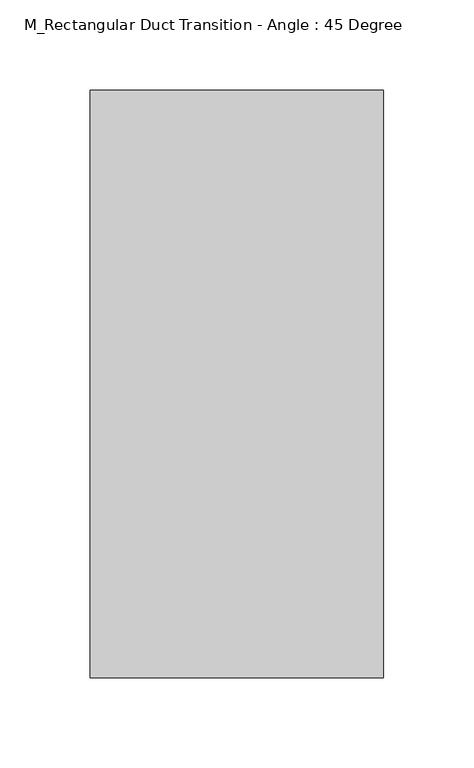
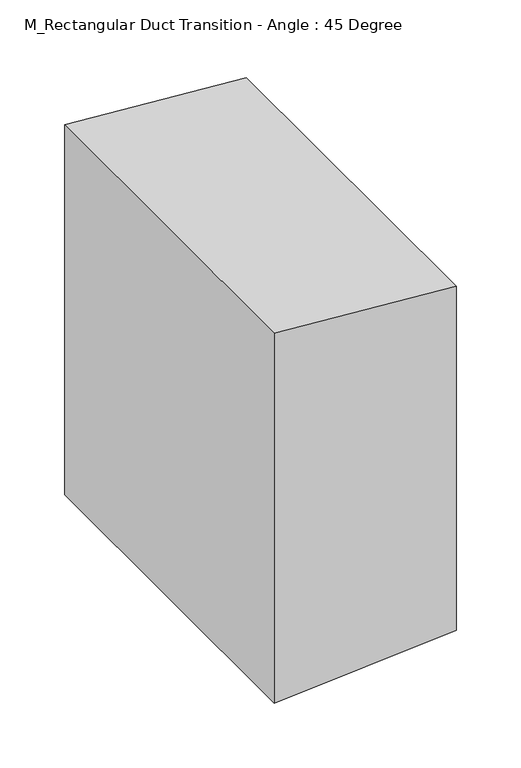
"""IFC4 building model written with IfcOpenShell, lengths in millimetres: duct fitting geometry, M_Rectangular Duct Transition - Angle : 45 Degree."""

from ifc_helpers import new_model, si_unit, frame, origin, place, context, project, spatial, polyline, outline, extrude, source, transform, mapped, element, save


def m_rectangular_duct_transition_angle_45_degree_3830beb0(model_context):
    return source(origin(), model_context, "Body", "SweptSolid", [
        extrude(outline(polyline([(-175.0, 0.0), (175.0, 0.0), (162.5, -162.5), (-162.5, -162.5), (-175.0, 0.0)])), frame((0.0, -162.5, 0.0), z_axis=(-1.238633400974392e-12, 1.0, 0.0), x_axis=(0.0, 0.0, -1.0)), (0.0, 0.0, 1.0), 325.0),
        extrude(outline(polyline([(175.0, 0.0), (-175.0, 0.0), (-162.5, 162.5), (162.5, 162.5), (175.0, 0.0)])), frame((0.0, -162.5, 0.0), z_axis=(0.0, 1.0, 0.0), x_axis=(0.0, 0.0, 1.0)), (0.0, 0.0, 1.0), 325.0),
        extrude(outline(polyline([(175.0, 0.0), (-175.0, 0.0), (-162.5, 162.5), (162.5, 162.5), (175.0, 0.0)])), frame((0.0, -162.5, 0.0), z_axis=(0.0, 1.0, 0.0), x_axis=(0.0, 0.0, 1.0)), (0.0, 0.0, 1.0), 325.0),
    ])


if __name__ == "__main__":
    model = new_model("IFC4")
    model_context = context("Model", 3, world=origin())
    ifc_project = project(units=[si_unit("LENGTHUNIT", "METRE", prefix="MILLI")], contexts=[model_context])
    site = spatial("IfcSite", under=ifc_project)
    building = spatial("IfcBuilding", under=site)
    placement = place(None, origin())
    m_rectangular_duct_transition_angle_45_degree_shape = m_rectangular_duct_transition_angle_45_degree_3830beb0(model_context)
    element("IfcDuctFitting", 1, ObjectType="M_Rectangular Duct Transition - Angle : 45 Degree", at=placement, inside=building, context=model_context, shape_type="MappedRepresentation", body=[
        mapped(m_rectangular_duct_transition_angle_45_degree_shape, transform((0.0, 0.0, 0.0), x_axis=(1.0, 0.0, 0.0), y_axis=(0.0, 1.0, 0.0), z_axis=(0.0, 0.0, 1.0))),
    ])
    save(model, "model.ifc")
